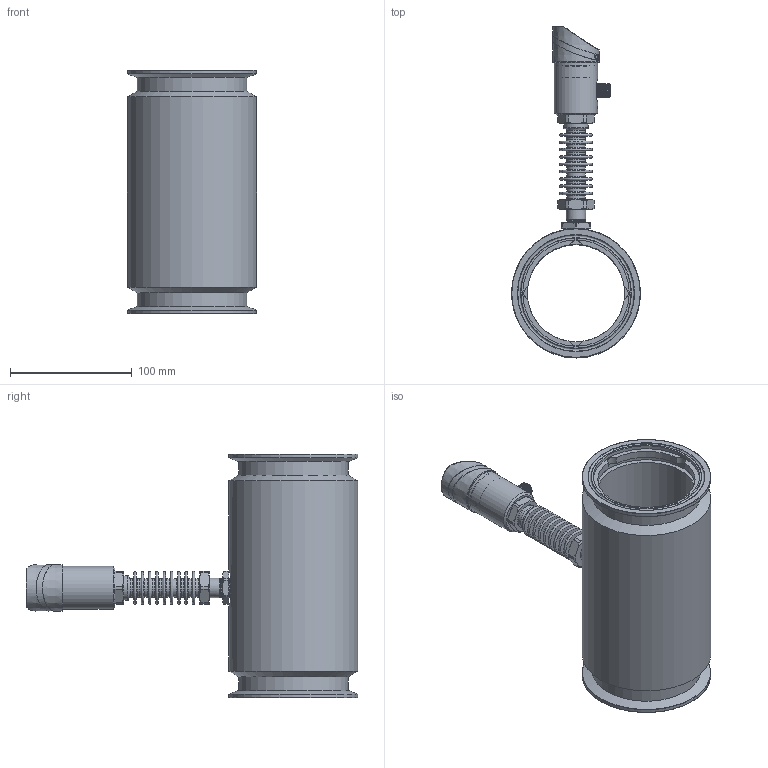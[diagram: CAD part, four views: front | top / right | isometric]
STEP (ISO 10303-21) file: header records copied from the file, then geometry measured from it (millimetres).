
FILE_DESCRIPTION( (''), '2;1');
FILE_NAME( 'QTKE_DN80_tri-clamp_high-temp.step', '2024-10-15T08:17:48+08:00', (''), (''), '', '', '');
FILE_SCHEMA (('AUTOMOTIVE_DESIGN { 1 0 10303 214 3 1 1 1 }'));
Length unit declared in the file: millimetre
Products named in the file (1): QTKE DN80_tri-clamp_high-temp
Bounding box: 106 x 272.5 x 200 mm (x, y, z)
Volume: 708737.6 mm3; surface area: 177990.2 mm2
Topology: 5 solids, 5 shells, 1028 faces, 2614 edges, 1691 vertices
Faces by surface type: plane 413, cylinder 192, extrusion 160, cone 111, torus 70, bspline 61, sphere 21
Full cylindrical faces by diameter (mm): 1.689 x1, 2 x1, 2.7 x6, 3.5 x5, 12 x1, 13 x1, 15 x10, 15.9 x1, 16.5 x1, 20 x1, 23 x3, 26 x5, 31.7 x1, 32 x1, 34 x1, 34.2 x1, 35.5 x2, 80 x1, 86 x2, 87.347 x2, 90 x2, 105.9 x2, 106 x1
Entity records: 45096 total; most frequent: CARTESIAN_POINT 17546, ORIENTED_EDGE 4810, DIRECTION 4286, EDGE_CURVE 2405, VERTEX_POINT 1633, AXIS2_PLACEMENT_3D 1554, EDGE_LOOP 1284, VECTOR 1178
